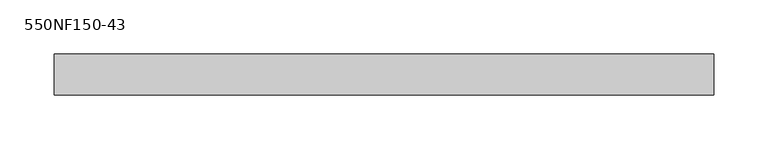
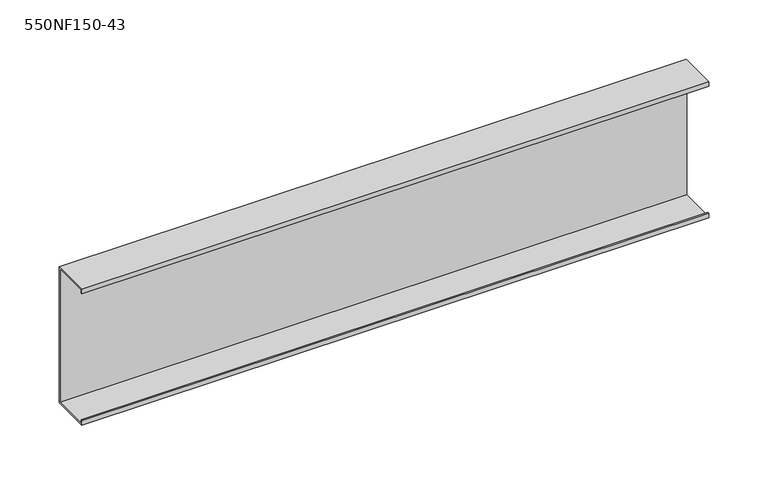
"""IFC4 building model written with IfcOpenShell, lengths in millimetres: beam geometry, BIMSF-SSMA-S : 550NF150-43."""

from ifc_helpers import new_model, si_unit, frame, origin, place, context, project, spatial, polyline, outline, extrude, source, transform, mapped, element, save


def beam_550nf150_43_00d6688c(model_context):
    return source(origin(), model_context, "Body", "SweptSolid", [
        extrude(outline(polyline([(19.05, 69.85), (19.05, -69.85), (-19.05, -69.85), (-19.05, -65.0748), (-17.9003158, -65.0748), (-17.9003158, -68.7003158), (17.9003158, -68.7003158), (17.9003158, 68.7003158), (-17.9003158, 68.7003158), (-17.9003158, 65.0748), (-19.05, 65.0748), (-19.05, 69.85), (19.05, 69.85)])), frame((-304.8, 0.0, 0.0), z_axis=(1.0, 0.0, 0.0), x_axis=(0.0, 1.0, 0.0)), (0.0, 0.0, 1.0), 609.6),
    ])


if __name__ == "__main__":
    model = new_model("IFC4")
    model_context = context("Model", 3, world=origin())
    ifc_project = project(units=[si_unit("LENGTHUNIT", "METRE", prefix="MILLI")], contexts=[model_context])
    site = spatial("IfcSite", under=ifc_project)
    building = spatial("IfcBuilding", under=site)
    placement = place(None, origin())
    beam_550nf150_43_shape = beam_550nf150_43_00d6688c(model_context)
    element("IfcBeam", 1, ObjectType="BIMSF-SSMA-S : 550NF150-43", at=placement, inside=building, context=model_context, shape_type="MappedRepresentation", body=[
        mapped(beam_550nf150_43_shape, transform((0.0, 0.0, 0.0), x_axis=(1.0, 0.0, 0.0), y_axis=(0.0, 1.0, 0.0), z_axis=(0.0, 0.0, 1.0))),
    ])
    save(model, "model.ifc")
